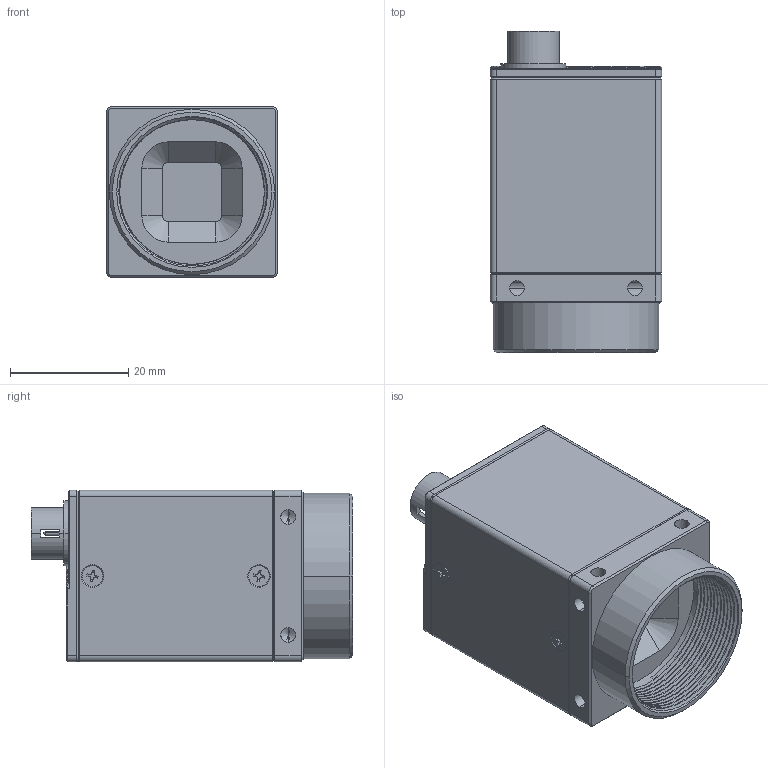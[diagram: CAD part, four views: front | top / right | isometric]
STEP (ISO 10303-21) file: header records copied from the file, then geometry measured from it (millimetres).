
FILE_DESCRIPTION (( 'STEP AP203' ), '1' );
FILE_NAME ('GEV-C-V2.STEP', '2023-04-15T05:50:21', ( '' ), ( '' ), 'SwSTEP 2.0', 'SolidWorks 2022', '' );
FILE_SCHEMA (( 'CONFIG_CONTROL_DESIGN' ));
Length unit declared in the file: millimetre
Products named in the file (1): GEV-C-V2
Bounding box: 29 x 54.4 x 29 mm (x, y, z)
Volume: 17915.7 mm3; surface area: 26152.7 mm2
Topology: 31 solids, 31 shells, 1356 faces, 3503 edges, 2214 vertices
Faces by surface type: plane 547, cylinder 501, cone 265, bspline 41, torus 2
Entity records: 46157 total; most frequent: CARTESIAN_POINT 13960, ORIENTED_EDGE 6914, DIRECTION 6363, EDGE_CURVE 3457, AXIS2_PLACEMENT_3D 2295, VERTEX_POINT 2214, VECTOR 1773, LINE 1773
